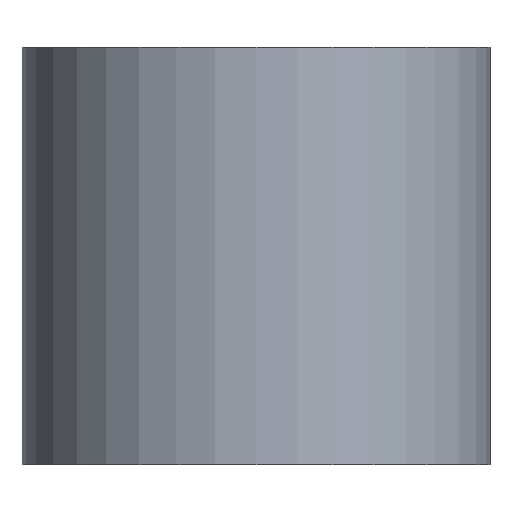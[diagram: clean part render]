
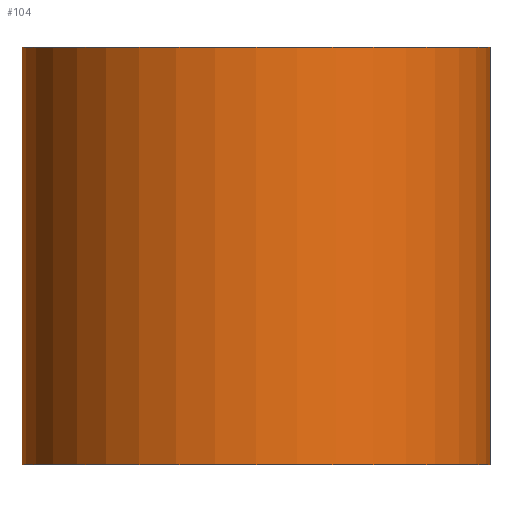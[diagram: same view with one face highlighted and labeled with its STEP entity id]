
A CAD part, left-side view. The second image highlights one B-rep face of the part: STEP entity #104.
In plain terms, the highlighted cylindrical face has radius 14 mm (diameter 28 mm), a partial arc.
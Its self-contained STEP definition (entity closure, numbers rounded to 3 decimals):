
#104=ADVANCED_FACE('',(#114),#110,.T.);
#110=CYLINDRICAL_SURFACE('',#191,14.);
#114=FACE_OUTER_BOUND('',#118,.T.);
#118=EDGE_LOOP('',(#137,#138,#139,#140));
#127=CIRCLE('',#189,14.);
#128=CIRCLE('',#190,14.);
#137=ORIENTED_EDGE('',*,*,#165,.F.);
#138=ORIENTED_EDGE('',*,*,#169,.T.);
#139=ORIENTED_EDGE('',*,*,#167,.T.);
#140=ORIENTED_EDGE('',*,*,#170,.F.);
#157=VERTEX_POINT('',#236);
#158=VERTEX_POINT('',#237);
#159=VERTEX_POINT('',#239);
#160=VERTEX_POINT('',#241);
#165=EDGE_CURVE('',#157,#158,#177,.T.);
#167=EDGE_CURVE('',#160,#159,#178,.T.);
#169=EDGE_CURVE('',#157,#160,#127,.T.);
#170=EDGE_CURVE('',#158,#159,#128,.T.);
#177=LINE('',#235,#181);
#178=LINE('',#240,#182);
#181=VECTOR('',#202,1.);
#182=VECTOR('',#205,1.);
#189=AXIS2_PLACEMENT_3D('',#244,#210,#211);
#190=AXIS2_PLACEMENT_3D('',#245,#212,#213);
#191=AXIS2_PLACEMENT_3D('',#246,#214,#215);
#202=DIRECTION('',(0.,0.,1.));
#205=DIRECTION('',(0.,0.,1.));
#210=DIRECTION('',(0.,0.,1.));
#211=DIRECTION('',(1.,0.,0.));
#212=DIRECTION('',(0.,0.,1.));
#213=DIRECTION('',(1.,0.,0.));
#214=DIRECTION('',(0.,0.,1.));
#215=DIRECTION('',(-1.,0.,0.));
#235=CARTESIAN_POINT('',(0.,14.,0.));
#236=CARTESIAN_POINT('',(0.,14.,-25.));
#237=CARTESIAN_POINT('',(0.,14.,0.));
#239=CARTESIAN_POINT('',(0.,-14.,0.));
#240=CARTESIAN_POINT('',(0.,-14.,0.));
#241=CARTESIAN_POINT('',(0.,-14.,-25.));
#244=CARTESIAN_POINT('',(0.,0.,-25.));
#245=CARTESIAN_POINT('',(0.,0.,0.));
#246=CARTESIAN_POINT('',(0.,0.,-25.));
